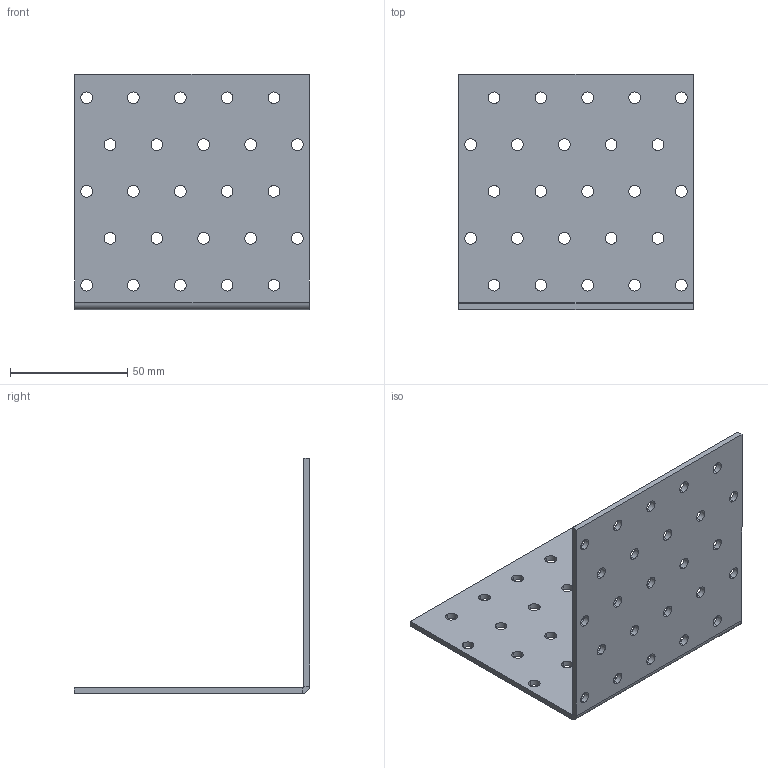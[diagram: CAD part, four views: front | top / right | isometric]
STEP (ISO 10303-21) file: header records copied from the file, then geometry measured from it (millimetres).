
FILE_DESCRIPTION (( 'STEP AP203' ), '1' );
FILE_NAME ('10512.STEP', '2020-04-20T11:17:28', ( '' ), ( '' ), 'SwSTEP 2.0', 'SolidWorks 2013', '' );
FILE_SCHEMA (( 'CONFIG_CONTROL_DESIGN' ));
Length unit declared in the file: millimetre
Products named in the file (1): 10512
Bounding box: 100 x 100.46 x 100.46 mm (x, y, z)
Volume: 46938.3 mm3; surface area: 41002 mm2
Topology: 1 solids, 1 shells, 114 faces, 328 edges, 216 vertices
Faces by surface type: cylinder 102, plane 12
Entity records: 4129 total; most frequent: DIRECTION 762, CARTESIAN_POINT 659, ORIENTED_EDGE 656, EDGE_CURVE 328, AXIS2_PLACEMENT_3D 319, VERTEX_POINT 216, EDGE_LOOP 214, CIRCLE 204
